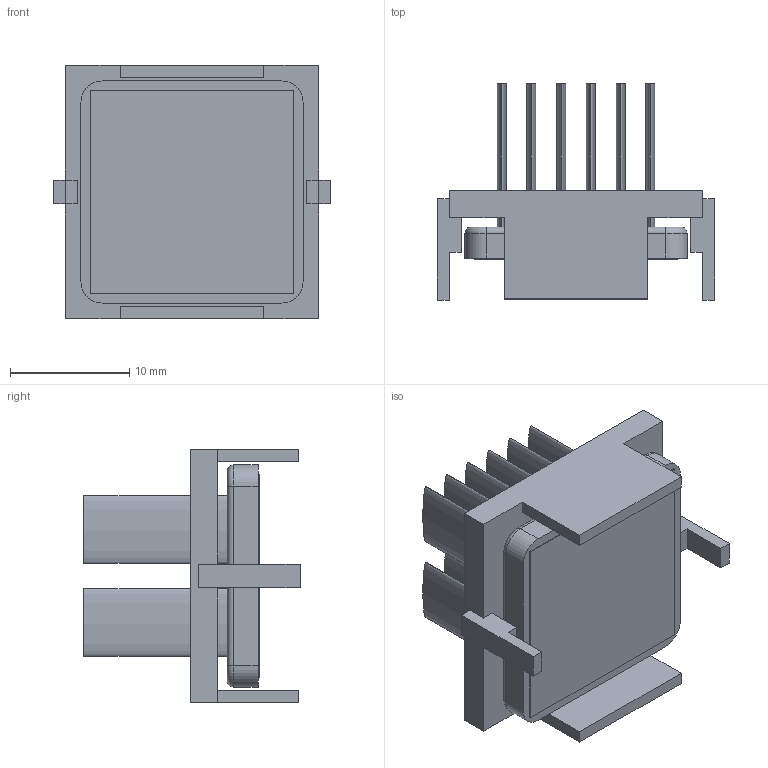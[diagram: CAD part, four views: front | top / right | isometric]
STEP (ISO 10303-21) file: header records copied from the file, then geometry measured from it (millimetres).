
FILE_DESCRIPTION (( 'STEP AP214' ), '1' );
FILE_NAME ('INM19001-15W-2.6Y.STEP', '2023-03-02T18:16:38', ( '' ), ( '' ), 'SwSTEP 2.0', 'SolidWorks 2020', '' );
FILE_SCHEMA (( 'AUTOMOTIVE_DESIGN' ));
Length unit declared in the file: millimetre
Products named in the file (1): INM19001-15W-2.6Y
Bounding box: 23.2 x 18.1 x 21.2 mm (x, y, z)
Volume: 2244.2 mm3; surface area: 4490.9 mm2
Topology: 3 solids, 3 shells, 106 faces, 256 edges, 168 vertices
Faces by surface type: plane 70, bspline 24, cylinder 8, torus 4
Entity records: 4330 total; most frequent: CARTESIAN_POINT 843, ORIENTED_EDGE 512, DIRECTION 394, EDGE_CURVE 256, LINE 188, VECTOR 188, VERTEX_POINT 168, EDGE_LOOP 120
